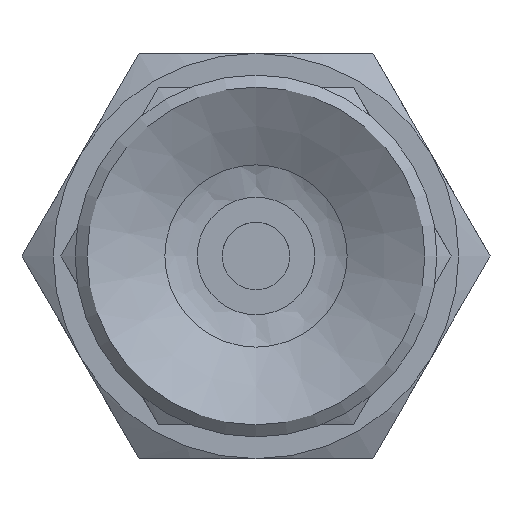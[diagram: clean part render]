
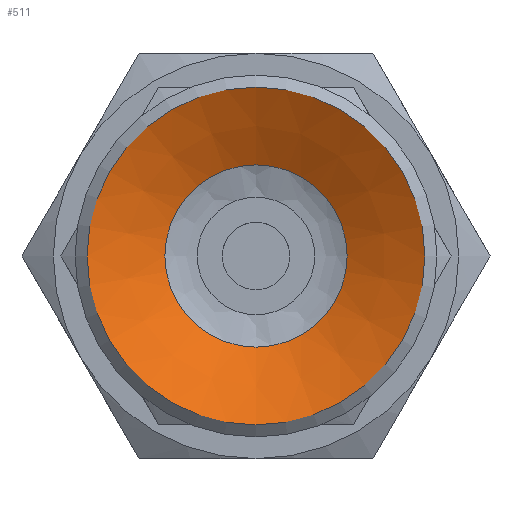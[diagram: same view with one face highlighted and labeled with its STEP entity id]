
A CAD part, front view. The second image highlights one B-rep face of the part: STEP entity #511.
In plain terms, the highlighted conical face has half-angle 61.39 degrees and reference radius 2.25 mm.
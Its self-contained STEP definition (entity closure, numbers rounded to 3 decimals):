
#511=ADVANCED_FACE('',(#795,#796),#797,.F.);
#795=FACE_BOUND('',#1082,.T.);
#796=FACE_OUTER_BOUND('',#1083,.T.);
#797=CONICAL_SURFACE('',#1084,2.25,1.071);
#1082=EDGE_LOOP('',(#1878));
#1083=EDGE_LOOP('',(#1879));
#1084=AXIS2_PLACEMENT_3D('',#1880,#1881,#1882);
#1878=ORIENTED_EDGE('',*,*,#2093,.T.);
#1879=ORIENTED_EDGE('',*,*,#2088,.T.);
#1880=CARTESIAN_POINT('',(0.0,1.5,0.0));
#1881=DIRECTION('',(-0.0,-1.0,0.));
#1882=DIRECTION('',(0.0,0.,-1.0));
#2088=EDGE_CURVE('',#2438,#2438,#2439,.T.);
#2093=EDGE_CURVE('',#2448,#2448,#2449,.T.);
#2438=VERTEX_POINT('',#3218);
#2439=CIRCLE('',#3219,5.);
#2448=VERTEX_POINT('',#3228);
#2449=CIRCLE('',#3229,2.698);
#3218=CARTESIAN_POINT('',(0.0,0.,-5.));
#3219=AXIS2_PLACEMENT_3D('',#3525,#3526,#3527);
#3228=CARTESIAN_POINT('',(0.0,1.256,-2.698));
#3229=AXIS2_PLACEMENT_3D('',#3540,#3541,#3542);
#3525=CARTESIAN_POINT('',(0.0,0.0,0.0));
#3526=DIRECTION('',(0.0,-1.0,0.));
#3527=DIRECTION('',(0.0,0.,-1.0));
#3540=CARTESIAN_POINT('',(0.0,1.256,0.0));
#3541=DIRECTION('',(0.0,1.0,0.));
#3542=DIRECTION('',(0.0,0.,-1.0));
